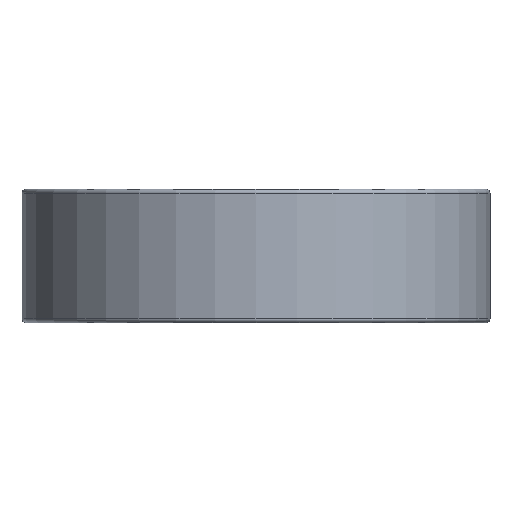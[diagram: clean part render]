
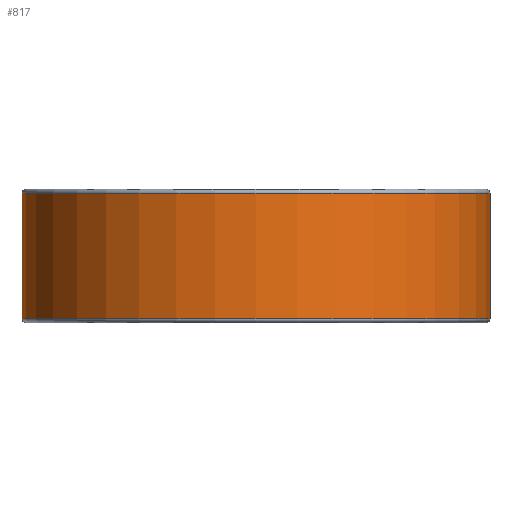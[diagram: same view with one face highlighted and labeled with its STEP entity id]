
A CAD part, front view. The second image highlights one B-rep face of the part: STEP entity #817.
In plain terms, the highlighted cylindrical face has radius 17.5 mm (diameter 35 mm), a full revolution.
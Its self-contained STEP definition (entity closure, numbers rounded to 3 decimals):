
#116=LINE('',#1211,#122);
#122=VECTOR('',#1017,17.5);
#128=CYLINDRICAL_SURFACE('',#892,17.5);
#139=FACE_OUTER_BOUND('',#179,.T.);
#179=EDGE_LOOP('',(#548,#549,#550,#551,#552,#553));
#239=CIRCLE('',#888,17.5);
#240=CIRCLE('',#889,17.5);
#243=CIRCLE('',#893,17.5);
#244=CIRCLE('',#894,17.5);
#297=VERTEX_POINT('',#1200);
#298=VERTEX_POINT('',#1201);
#300=VERTEX_POINT('',#1208);
#301=VERTEX_POINT('',#1209);
#400=EDGE_CURVE('',#297,#298,#239,.T.);
#401=EDGE_CURVE('',#298,#297,#240,.T.);
#404=EDGE_CURVE('',#300,#301,#243,.T.);
#405=EDGE_CURVE('',#300,#298,#116,.T.);
#406=EDGE_CURVE('',#301,#300,#244,.T.);
#548=ORIENTED_EDGE('',*,*,#404,.F.);
#549=ORIENTED_EDGE('',*,*,#405,.T.);
#550=ORIENTED_EDGE('',*,*,#400,.F.);
#551=ORIENTED_EDGE('',*,*,#401,.F.);
#552=ORIENTED_EDGE('',*,*,#405,.F.);
#553=ORIENTED_EDGE('',*,*,#406,.F.);
#817=ADVANCED_FACE('',(#139),#128,.T.);
#888=AXIS2_PLACEMENT_3D('',#1202,#1005,#1006);
#889=AXIS2_PLACEMENT_3D('',#1203,#1007,#1008);
#892=AXIS2_PLACEMENT_3D('',#1207,#1013,#1014);
#893=AXIS2_PLACEMENT_3D('',#1210,#1015,#1016);
#894=AXIS2_PLACEMENT_3D('',#1212,#1018,#1019);
#1005=DIRECTION('center_axis',(0.,0.,-1.));
#1006=DIRECTION('ref_axis',(0.,-1.,0.));
#1007=DIRECTION('center_axis',(0.,0.,-1.));
#1008=DIRECTION('ref_axis',(0.,-1.,0.));
#1013=DIRECTION('center_axis',(0.,0.,1.));
#1014=DIRECTION('ref_axis',(0.,1.,0.));
#1015=DIRECTION('center_axis',(0.,0.,1.));
#1016=DIRECTION('ref_axis',(0.,-1.,0.));
#1017=DIRECTION('',(0.,0.,-1.));
#1018=DIRECTION('center_axis',(0.,0.,1.));
#1019=DIRECTION('ref_axis',(0.,-1.,0.));
#1200=CARTESIAN_POINT('',(-17.5,0.,0.3));
#1201=CARTESIAN_POINT('',(0.,-17.5,0.3));
#1202=CARTESIAN_POINT('Origin',(0.,0.,0.3));
#1203=CARTESIAN_POINT('Origin',(0.,0.,0.3));
#1207=CARTESIAN_POINT('Origin',(0.,0.,5.));
#1208=CARTESIAN_POINT('',(0.,-17.5,9.7));
#1209=CARTESIAN_POINT('',(-17.5,0.,9.7));
#1210=CARTESIAN_POINT('Origin',(0.,0.,9.7));
#1211=CARTESIAN_POINT('',(0.,-17.5,5.));
#1212=CARTESIAN_POINT('Origin',(0.,0.,9.7));
